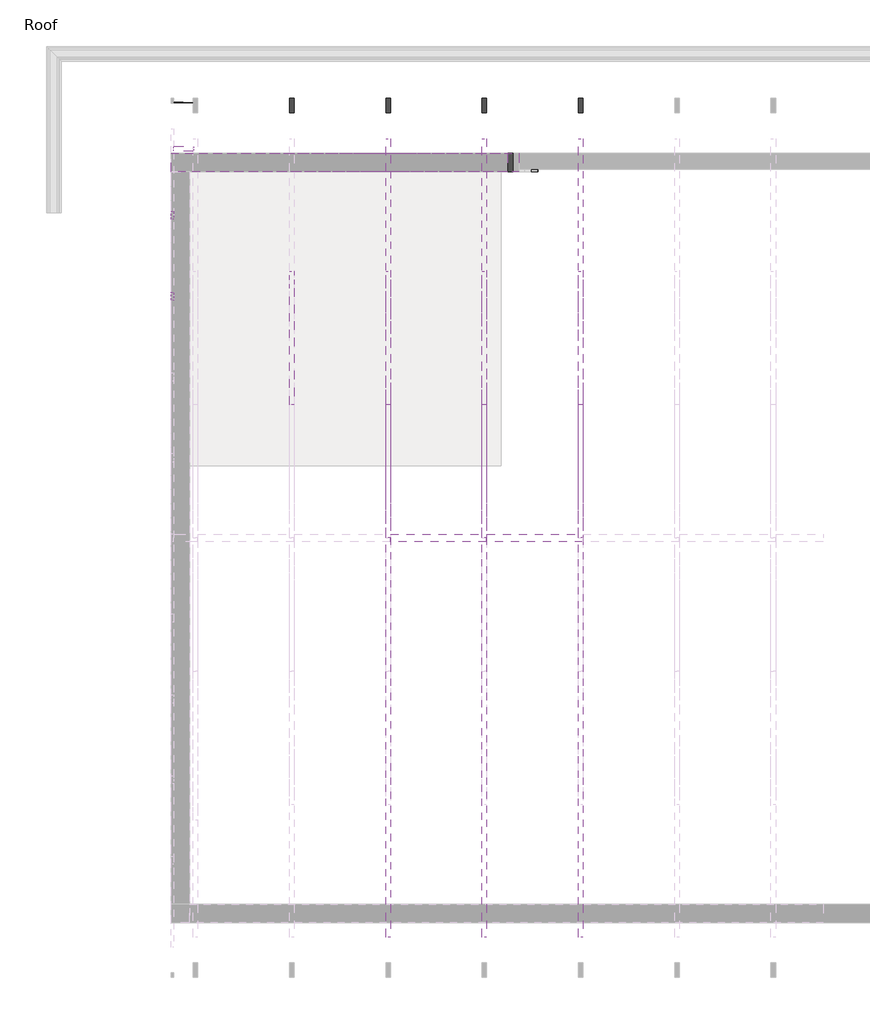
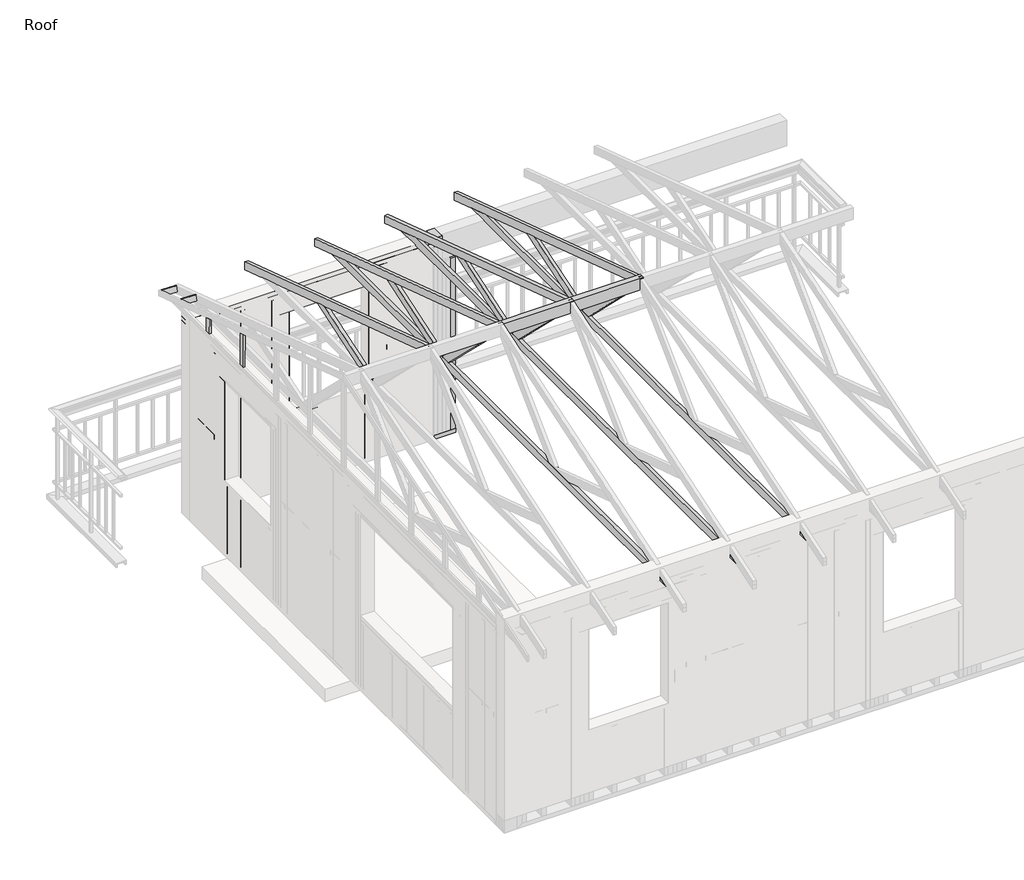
# One storey, part 4 of 6: 92 beams.
"""IFC4 building model written with IfcOpenShell, lengths in millimetres."""

from ifc_helpers import new_model, si_unit, frame, origin, place, context, project, spatial, polyline, outline, extrude, transform, mapped, element, save
from components import beam_3fbe4e3d, beam_2a418d08, beam_a3a851c1, beam_51437148, experttrusspart_2_x_4_5d1fd198, experttrusspart_2_x_4_7bcd8695, beam_14325a6d, beam_a279e93a, beam_8c6c62c1, beam_a0387a4f, beam_16850151, beam_07e80ac2, beam_1607fcbd, beam_4715e774, beam_34a553ad, beam_072c08c6, beam_5118db80, beam_ac3a78cb, beam_d06b0733, beam_8791feaf, beam_558964e0, beam_b7962ac8, beam_e041d9c6, beam_19b97b81, beam_b949707d, beam_7b8014bc, beam_51b55d0f, beam_57e885f1, beam_9d6aa0d6, beam_2e444c4d, beam_34389604, beam_ad39f8b9

model = new_model("IFC4")

# Units and contexts
model_context = context("Model", 3, world=origin())
ifc_project = project(units=[si_unit("LENGTHUNIT", "METRE", prefix="MILLI")], contexts=[model_context])

# Site, building, storey
site = spatial("IfcSite", under=ifc_project)
building = spatial("IfcBuilding", under=site)
storey = spatial("IfcBuildingStorey", under=building, Name="Roof", Elevation=4267.2)

# Beams
placement = place(None, origin())
beam_shape = beam_3fbe4e3d(model_context)
element("IfcBeam", 1, ObjectType="BraceBeam : 1\" x 3\"", at=placement, inside=storey, context=model_context, shape_type="MappedRepresentation", body=[
    mapped(beam_shape, transform((-11432.8538577, -18721.6074184, 5625.1434266), x_axis=(0.9993467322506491, -0.03219935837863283, 0.01641066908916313), y_axis=(0.03570355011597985, 0.9499881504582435, -0.3102382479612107), z_axis=(-0.0056004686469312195, 0.3106214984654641, 0.9505171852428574))),
])
beam_2_shape = beam_2a418d08(model_context)
element("IfcBeam", 2, ObjectType="BraceBeam : 1\" x 3\"", at=placement, inside=storey, context=model_context, shape_type="MappedRepresentation", body=[
    mapped(beam_2_shape, transform((-11432.8564169, -18335.048789, 5498.9646338), x_axis=(0.9993472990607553, -0.03223591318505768, 0.016304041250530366), y_axis=(0.035705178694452, 0.9499879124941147, -0.31023878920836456), z_axis=(-0.005487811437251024, 0.31061843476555, 0.9505188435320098))),
])
beam_3_shape = beam_a3a851c1(model_context)
element("IfcBeam", 3, ObjectType="BraceBeam : 1\" x 3\"", at=placement, inside=storey, context=model_context, shape_type="MappedRepresentation", body=[
    mapped(beam_3_shape, transform((-11520.2112948, -19948.8273655, 5797.4332975), x_axis=(0.0, -0.009884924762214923, 0.9999511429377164), y_axis=(1.0, 0.0, 0.0), z_axis=(0.0, 0.9999511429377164, 0.009884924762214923))),
])
beam_4_shape = beam_51437148(model_context)
element("IfcBeam", 4, ObjectType="BraceBeam : 1\" x 3\"", at=placement, inside=storey, context=model_context, shape_type="MappedRepresentation", body=[
    mapped(beam_4_shape, transform((-11520.2112948, -19276.6541589, 5687.5908368), x_axis=(0.0, -0.011417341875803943, 0.9999348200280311), y_axis=(1.0, 0.0, 0.0), z_axis=(0.0, 0.9999348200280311, 0.011417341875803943))),
])
element("IfcBeam", 5, ObjectType="ExpertTrussPart : 2 x 4", at=placement, inside=storey, context=model_context, shape_type="SweptSolid", body=[
    extrude(outline(polyline([(-19883.9561718, 5943.8890941), (-19812.3273277, 5920.5102353), (-19740.6984836, 5897.1313765), (-20571.0924881, 5626.1), (-20850.5374103, 5626.1), (-20850.2876203, 5628.4892463), (-19883.9561718, 5943.8890941)])), frame((-10545.0057433, 0.0, 0.0), z_axis=(1.0, 0.0, 0.0), x_axis=(0.0, 1.0, 0.0)), (0.0, 0.0, 1.0), 38.1),
])
element("IfcBeam", 6, ObjectType="ExpertTrussPart : 2 x 4", at=placement, inside=storey, context=model_context, shape_type="SweptSolid", body=[
    extrude(outline(polyline([(-21793.4464104, 6567.1254915), (-20848.8530293, 5642.2111391), (-20850.5374103, 5626.1), (-20959.4672099, 5626.1), (-21960.3763369, 6606.1568536), (-21960.3763369, 6621.6095647), (-21793.4464104, 6567.1254915)])), frame((-9743.2124099, 0.0, 0.0), z_axis=(1.0, 0.0, 0.0), x_axis=(0.0, 1.0, 0.0)), (0.0, 0.0, 1.0), 38.1),
])
element("IfcBeam", 7, ObjectType="ExpertTrussPart : 2 x 4", at=placement, inside=storey, context=model_context, shape_type="SweptSolid", body=[
    extrude(outline(polyline([(-19883.9561718, 5943.8890941), (-19812.3273277, 5920.5102353), (-19740.6984836, 5897.1313765), (-20571.0924881, 5626.1), (-20850.5374103, 5626.1), (-20850.2876203, 5628.4892463), (-19883.9561718, 5943.8890941)])), frame((-9743.2124099, 0.0, 0.0), z_axis=(1.0, 0.0, 0.0), x_axis=(0.0, 1.0, 0.0)), (0.0, 0.0, 1.0), 38.1),
])
element("IfcBeam", 8, ObjectType="ExpertTrussPart : 2 x 4", at=placement, inside=storey, context=model_context, shape_type="SweptSolid", body=[
    extrude(outline(polyline([(-21793.4464104, 6567.1254915), (-20848.8530293, 5642.2111391), (-20850.5374103, 5626.1), (-20959.4672099, 5626.1), (-21960.3763369, 6606.1568536), (-21960.3763369, 6621.6095647), (-21793.4464104, 6567.1254915)])), frame((-8941.4190766, 0.0, 0.0), z_axis=(1.0, 0.0, 0.0), x_axis=(0.0, 1.0, 0.0)), (0.0, 0.0, 1.0), 38.1),
])
element("IfcBeam", 9, ObjectType="ExpertTrussPart : 2 x 4", at=placement, inside=storey, context=model_context, shape_type="SweptSolid", body=[
    extrude(outline(polyline([(-19883.9561718, 5943.8890941), (-19812.3273277, 5920.5102353), (-19740.6984836, 5897.1313765), (-20571.0924881, 5626.1), (-20850.5374103, 5626.1), (-20850.2876203, 5628.4892463), (-19883.9561718, 5943.8890941)])), frame((-8941.4190766, 0.0, 0.0), z_axis=(1.0, 0.0, 0.0), x_axis=(0.0, 1.0, 0.0)), (0.0, 0.0, 1.0), 38.1),
])
element("IfcBeam", 10, ObjectType="ExpertTrussPart : 2 x 4", at=placement, inside=storey, context=model_context, shape_type="SweptSolid", body=[
    extrude(outline(polyline([(-21793.4464104, 6567.1254915), (-20848.8530293, 5642.2111391), (-20850.5374103, 5626.1), (-20959.4672099, 5626.1), (-21960.3763369, 6606.1568536), (-21960.3763369, 6621.6095647), (-21793.4464104, 6567.1254915)])), frame((-8139.6257433, 0.0, 0.0), z_axis=(1.0, 0.0, 0.0), x_axis=(0.0, 1.0, 0.0)), (0.0, 0.0, 1.0), 38.1),
])
element("IfcBeam", 11, ObjectType="ExpertTrussPart : 2 x 4", at=placement, inside=storey, context=model_context, shape_type="SweptSolid", body=[
    extrude(outline(polyline([(-19883.9561718, 5943.8890941), (-19812.3273277, 5920.5102353), (-19740.6984836, 5897.1313765), (-20571.0924881, 5626.1), (-20850.5374103, 5626.1), (-20850.2876203, 5628.4892463), (-19883.9561718, 5943.8890941)])), frame((-8139.6257433, 0.0, 0.0), z_axis=(1.0, 0.0, 0.0), x_axis=(0.0, 1.0, 0.0)), (0.0, 0.0, 1.0), 38.1),
])
element("IfcBeam", 12, ObjectType="ExpertTrussPart : 2 x 4", at=placement, inside=storey, context=model_context, shape_type="SweptSolid", body=[
    extrude(outline(polyline([(-19883.9561718, 5943.8890941), (-19812.3273277, 5920.5102353), (-19740.6984836, 5897.1313765), (-20571.0924881, 5626.1), (-20850.5374103, 5626.1), (-20850.2876203, 5628.4892463), (-19883.9561718, 5943.8890941)])), frame((-10545.0057433, 0.0, 0.0), z_axis=(1.0, 0.0, 0.0), x_axis=(0.0, 1.0, 0.0)), (0.0, 0.0, 1.0), 38.1),
])
element("IfcBeam", 13, ObjectType="ExpertTrussPart : 2 x 4", at=placement, inside=storey, context=model_context, shape_type="SweptSolid", body=[
    extrude(outline(polyline([(-21793.4464104, 6567.1254915), (-20848.8530293, 5642.2111391), (-20850.5374103, 5626.1), (-20959.4672099, 5626.1), (-21960.3763369, 6606.1568536), (-21960.3763369, 6621.6095647), (-21793.4464104, 6567.1254915)])), frame((-9743.2124099, 0.0, 0.0), z_axis=(1.0, 0.0, 0.0), x_axis=(0.0, 1.0, 0.0)), (0.0, 0.0, 1.0), 38.1),
])
element("IfcBeam", 14, ObjectType="ExpertTrussPart : 2 x 4", at=placement, inside=storey, context=model_context, shape_type="SweptSolid", body=[
    extrude(outline(polyline([(-19883.9561718, 5943.8890941), (-19812.3273277, 5920.5102353), (-19740.6984836, 5897.1313765), (-20571.0924881, 5626.1), (-20850.5374103, 5626.1), (-20850.2876203, 5628.4892463), (-19883.9561718, 5943.8890941)])), frame((-9743.2124099, 0.0, 0.0), z_axis=(1.0, 0.0, 0.0), x_axis=(0.0, 1.0, 0.0)), (0.0, 0.0, 1.0), 38.1),
])
element("IfcBeam", 15, ObjectType="ExpertTrussPart : 2 x 4", at=placement, inside=storey, context=model_context, shape_type="SweptSolid", body=[
    extrude(outline(polyline([(-21793.4464104, 6567.1254915), (-20848.8530293, 5642.2111391), (-20850.5374103, 5626.1), (-20959.4672099, 5626.1), (-21960.3763369, 6606.1568536), (-21960.3763369, 6621.6095647), (-21793.4464104, 6567.1254915)])), frame((-8941.4190766, 0.0, 0.0), z_axis=(1.0, 0.0, 0.0), x_axis=(0.0, 1.0, 0.0)), (0.0, 0.0, 1.0), 38.1),
])
element("IfcBeam", 16, ObjectType="ExpertTrussPart : 2 x 4", at=placement, inside=storey, context=model_context, shape_type="SweptSolid", body=[
    extrude(outline(polyline([(-19883.9561718, 5943.8890941), (-19812.3273277, 5920.5102353), (-19740.6984836, 5897.1313765), (-20571.0924881, 5626.1), (-20850.5374103, 5626.1), (-20850.2876203, 5628.4892463), (-19883.9561718, 5943.8890941)])), frame((-8941.4190766, 0.0, 0.0), z_axis=(1.0, 0.0, 0.0), x_axis=(0.0, 1.0, 0.0)), (0.0, 0.0, 1.0), 38.1),
])
element("IfcBeam", 17, ObjectType="ExpertTrussPart : 2 x 4", at=placement, inside=storey, context=model_context, shape_type="SweptSolid", body=[
    extrude(outline(polyline([(-21793.4464104, 6567.1254915), (-20848.8530293, 5642.2111391), (-20850.5374103, 5626.1), (-20959.4672099, 5626.1), (-21960.3763369, 6606.1568536), (-21960.3763369, 6621.6095647), (-21793.4464104, 6567.1254915)])), frame((-8139.6257433, 0.0, 0.0), z_axis=(1.0, 0.0, 0.0), x_axis=(0.0, 1.0, 0.0)), (0.0, 0.0, 1.0), 38.1),
])
element("IfcBeam", 18, ObjectType="ExpertTrussPart : 2 x 4", at=placement, inside=storey, context=model_context, shape_type="SweptSolid", body=[
    extrude(outline(polyline([(-19883.9561718, 5943.8890941), (-19812.3273277, 5920.5102353), (-19740.6984836, 5897.1313765), (-20571.0924881, 5626.1), (-20850.5374103, 5626.1), (-20850.2876203, 5628.4892463), (-19883.9561718, 5943.8890941)])), frame((-8139.6257433, 0.0, 0.0), z_axis=(1.0, 0.0, 0.0), x_axis=(0.0, 1.0, 0.0)), (0.0, 0.0, 1.0), 38.1),
])
experttrusspart_2_x_4_shape = experttrusspart_2_x_4_5d1fd198(model_context)
element("IfcBeam", 19, ObjectType="ExpertTrussPart : 2 x 4", at=placement, inside=storey, context=model_context, shape_type="MappedRepresentation", body=[
    mapped(experttrusspart_2_x_4_shape, transform((-9724.1624099, -21960.3763369, 5537.2), x_axis=(0.0, -1.0, 0.0), y_axis=(1.0, 0.0, 0.0), z_axis=(0.0, 0.0, 1.0))),
])
element("IfcBeam", 20, ObjectType="ExpertTrussPart : 2 x 4", at=placement, inside=storey, context=model_context, shape_type="MappedRepresentation", body=[
    mapped(experttrusspart_2_x_4_shape, transform((-8922.3690766, -21960.3763369, 5537.2), x_axis=(0.0, -1.0, 0.0), y_axis=(1.0, 0.0, 0.0), z_axis=(0.0, 0.0, 1.0))),
])
element("IfcBeam", 21, ObjectType="ExpertTrussPart : 2 x 4", at=placement, inside=storey, context=model_context, shape_type="MappedRepresentation", body=[
    mapped(experttrusspart_2_x_4_shape, transform((-8120.5757433, -21960.3763369, 5537.2), x_axis=(0.0, -1.0, 0.0), y_axis=(1.0, 0.0, 0.0), z_axis=(0.0, 0.0, 1.0))),
])
element("IfcBeam", 22, ObjectType="ExpertTrussPart : 2 x 4", at=placement, inside=storey, context=model_context, shape_type="MappedRepresentation", body=[
    mapped(experttrusspart_2_x_4_shape, transform((-9724.1624099, -21960.3763369, 5537.2), x_axis=(0.0, -1.0, 0.0), y_axis=(1.0, 0.0, 0.0), z_axis=(0.0, 0.0, 1.0))),
])
element("IfcBeam", 23, ObjectType="ExpertTrussPart : 2 x 4", at=placement, inside=storey, context=model_context, shape_type="MappedRepresentation", body=[
    mapped(experttrusspart_2_x_4_shape, transform((-8922.3690766, -21960.3763369, 5537.2), x_axis=(0.0, -1.0, 0.0), y_axis=(1.0, 0.0, 0.0), z_axis=(0.0, 0.0, 1.0))),
])
element("IfcBeam", 24, ObjectType="ExpertTrussPart : 2 x 4", at=placement, inside=storey, context=model_context, shape_type="MappedRepresentation", body=[
    mapped(experttrusspart_2_x_4_shape, transform((-8120.5757433, -21960.3763369, 5537.2), x_axis=(0.0, -1.0, 0.0), y_axis=(1.0, 0.0, 0.0), z_axis=(0.0, 0.0, 1.0))),
])
experttrusspart_2_x_4_2_shape = experttrusspart_2_x_4_7bcd8695(model_context)
element("IfcBeam", 25, ObjectType="ExpertTrussPart : 2 x 4", at=placement, inside=storey, context=model_context, shape_type="MappedRepresentation", body=[
    mapped(experttrusspart_2_x_4_2_shape, transform((-10525.9557433, -20145.3682843, 6029.2111031), x_axis=(0.0, 0.950645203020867, -0.3102800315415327), y_axis=(-1.0, 0.0, 0.0), z_axis=(0.0, 0.3102800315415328, 0.9506452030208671))),
])
element("IfcBeam", 26, ObjectType="ExpertTrussPart : 2 x 4", at=placement, inside=storey, context=model_context, shape_type="MappedRepresentation", body=[
    mapped(experttrusspart_2_x_4_2_shape, transform((-9724.1624099, -20145.3682843, 6029.2111031), x_axis=(0.0, 0.9506452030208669, -0.310280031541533), y_axis=(-1.0, 0.0, 0.0), z_axis=(0.0, 0.31028003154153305, 0.950645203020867))),
])
element("IfcBeam", 27, ObjectType="ExpertTrussPart : 2 x 4", at=placement, inside=storey, context=model_context, shape_type="MappedRepresentation", body=[
    mapped(experttrusspart_2_x_4_2_shape, transform((-8922.3690766, -20145.3682843, 6029.2111031), x_axis=(0.0, 0.950645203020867, -0.310280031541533), y_axis=(-1.0, 0.0, 0.0), z_axis=(0.0, 0.3102800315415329, 0.950645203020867))),
])
element("IfcBeam", 28, ObjectType="ExpertTrussPart : 2 x 4", at=placement, inside=storey, context=model_context, shape_type="MappedRepresentation", body=[
    mapped(experttrusspart_2_x_4_2_shape, transform((-8120.5757433, -20145.3682843, 6029.2111031), x_axis=(0.0, 0.950645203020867, -0.31028003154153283), y_axis=(-1.0, 0.0, 0.0), z_axis=(0.0, 0.3102800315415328, 0.9506452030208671))),
])
element("IfcBeam", 29, ObjectType="ExpertTrussPart : 2 x 4", at=placement, inside=storey, context=model_context, shape_type="MappedRepresentation", body=[
    mapped(experttrusspart_2_x_4_2_shape, transform((-10525.9557433, -20145.3682843, 6029.2111031), x_axis=(0.0, 0.950645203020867, -0.3102800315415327), y_axis=(-1.0, 0.0, 0.0), z_axis=(0.0, 0.3102800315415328, 0.9506452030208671))),
])
element("IfcBeam", 30, ObjectType="ExpertTrussPart : 2 x 4", at=placement, inside=storey, context=model_context, shape_type="MappedRepresentation", body=[
    mapped(experttrusspart_2_x_4_2_shape, transform((-9724.1624099, -20145.3682843, 6029.2111031), x_axis=(0.0, 0.9506452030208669, -0.310280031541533), y_axis=(-1.0, 0.0, 0.0), z_axis=(0.0, 0.31028003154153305, 0.950645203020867))),
])
element("IfcBeam", 31, ObjectType="ExpertTrussPart : 2 x 4", at=placement, inside=storey, context=model_context, shape_type="MappedRepresentation", body=[
    mapped(experttrusspart_2_x_4_2_shape, transform((-8922.3690766, -20145.3682843, 6029.2111031), x_axis=(0.0, 0.950645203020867, -0.310280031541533), y_axis=(-1.0, 0.0, 0.0), z_axis=(0.0, 0.3102800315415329, 0.950645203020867))),
])
element("IfcBeam", 32, ObjectType="ExpertTrussPart : 2 x 4", at=placement, inside=storey, context=model_context, shape_type="MappedRepresentation", body=[
    mapped(experttrusspart_2_x_4_2_shape, transform((-8120.5757433, -20145.3682843, 6029.2111031), x_axis=(0.0, 0.950645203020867, -0.31028003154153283), y_axis=(-1.0, 0.0, 0.0), z_axis=(0.0, 0.3102800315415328, 0.9506452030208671))),
])
beam_5_shape = beam_14325a6d(model_context)
element("IfcBeam", 33, ObjectType="Rectangular(Timber)-Beam : Timber_0' - 1 31/32\" x0' - 3 15/16\" _ContentGenerator", at=placement, inside=storey, context=model_context, shape_type="MappedRepresentation", body=[
    mapped(beam_5_shape, transform((-9929.4790766, -18836.1763369, 3987.8), x_axis=(1.0000000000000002, 0.0, 0.0), y_axis=(0.0, 0.0, -1.0000000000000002), z_axis=(0.0, 1.0000000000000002, 0.0))),
])
element("IfcBeam", 34, ObjectType="Rectangular(Timber)-Beam : Timber_0' - 1 31/32\" x0' - 5 29/32\" _ContentGenerator", at=placement, inside=storey, context=model_context, shape_type="SweptSolid", body=[
    extrude(outline(polyline([(-8634.0740766, -18759.9763369), (-8634.0740766, -18912.3763369), (-11529.6790766, -18912.3763369), (-11529.6790766, -18759.9763369), (-8634.0740766, -18759.9763369)])), frame((0.0, 0.0, 5486.4), z_axis=(0.0, 0.0, 1.0), x_axis=(1.0, 0.0, 0.0)), (0.0, 0.0, 1.0), 50.8),
])
element("IfcBeam", 35, ObjectType="Rectangular(Timber)-Beam : Timber_0' - 1 31/32\" x0' - 5 29/32\" _ContentGenerator", at=placement, inside=storey, context=model_context, shape_type="SweptSolid", body=[
    extrude(outline(polyline([(-11529.6690766, -18759.9763369), (-11478.8690766, -18759.9763369), (-11478.8690766, -18912.3763369), (-11529.6690766, -18912.3763369), (-11529.6690766, -18759.9763369)])), frame((0.0, 0.0, 3098.8), z_axis=(0.0, 0.0, 1.0), x_axis=(1.0, 0.0, 0.0)), (0.0, 0.0, 1.0), 2387.6),
])
element("IfcBeam", 36, ObjectType="Rectangular(Timber)-Beam : Timber_0' - 1 31/32\" x0' - 5 29/32\" _ContentGenerator", at=placement, inside=storey, context=model_context, shape_type="SweptSolid", body=[
    extrude(outline(polyline([(-9370.6690766, -18759.9763369), (-9319.8690766, -18759.9763369), (-9319.8690766, -18912.3763369), (-9370.6690766, -18912.3763369), (-9370.6690766, -18759.9763369)])), frame((0.0, 0.0, 3149.6), z_axis=(0.0, 0.0, 1.0), x_axis=(1.0, 0.0, 0.0)), (0.0, 0.0, 1.0), 2286.0),
])
element("IfcBeam", 37, ObjectType="Rectangular(Timber)-Beam : Timber_0' - 1 31/32\" x0' - 5 29/32\" _ContentGenerator", at=placement, inside=storey, context=model_context, shape_type="SweptSolid", body=[
    extrude(outline(polyline([(-10539.0690766, -18759.9763369), (-10488.2690766, -18759.9763369), (-10488.2690766, -18912.3763369), (-10539.0690766, -18912.3763369), (-10539.0690766, -18759.9763369)])), frame((0.0, 0.0, 3149.6), z_axis=(0.0, 0.0, 1.0), x_axis=(1.0, 0.0, 0.0)), (0.0, 0.0, 1.0), 2286.0),
])
element("IfcBeam", 38, ObjectType="Rectangular(Timber)-Beam : Timber_0' - 1 31/32\" x0' - 5 29/32\" _ContentGenerator", at=placement, inside=storey, context=model_context, shape_type="SweptSolid", body=[
    extrude(outline(polyline([(-10589.8690766, -18759.9763369), (-10539.0690766, -18759.9763369), (-10539.0690766, -18912.3763369), (-10589.8690766, -18912.3763369), (-10589.8690766, -18759.9763369)])), frame((0.0, 0.0, 3149.6), z_axis=(0.0, 0.0, 1.0), x_axis=(1.0, 0.0, 0.0)), (0.0, 0.0, 1.0), 2286.0),
])
element("IfcBeam", 39, ObjectType="Rectangular(Timber)-Beam : Timber_0' - 1 31/32\" x0' - 5 29/32\" _ContentGenerator", at=placement, inside=storey, context=model_context, shape_type="SweptSolid", body=[
    extrude(outline(polyline([(-9319.8690766, -18759.9763369), (-9269.0690766, -18759.9763369), (-9269.0690766, -18912.3763369), (-9319.8690766, -18912.3763369), (-9319.8690766, -18759.9763369)])), frame((0.0, 0.0, 3149.6), z_axis=(0.0, 0.0, 1.0), x_axis=(1.0, 0.0, 0.0)), (0.0, 0.0, 1.0), 2286.0),
])
element("IfcBeam", 40, ObjectType="Rectangular(Timber)-Beam : Timber_0' - 1 31/32\" x0' - 5 29/32\" _ContentGenerator", at=placement, inside=storey, context=model_context, shape_type="SweptSolid", body=[
    extrude(outline(polyline([(-11377.2790766, -19458.4863369), (-11377.2790766, -19509.2863369), (-11529.6790766, -19509.2863369), (-11529.6790766, -19458.4863369), (-11377.2790766, -19458.4863369)])), frame((0.0, 0.0, 3149.6), z_axis=(0.0, 0.0, 1.0), x_axis=(1.0, 0.0, 0.0)), (0.0, 0.0, 1.0), 2286.0),
])
element("IfcBeam", 41, ObjectType="Rectangular(Timber)-Beam : Timber_0' - 1 31/32\" x0' - 5 29/32\" _ContentGenerator", at=placement, inside=storey, context=model_context, shape_type="SweptSolid", body=[
    extrude(outline(polyline([(-11377.2790766, -19407.6863369), (-11377.2790766, -19458.4863369), (-11529.6790766, -19458.4863369), (-11529.6790766, -19407.6863369), (-11377.2790766, -19407.6863369)])), frame((0.0, 0.0, 3149.6), z_axis=(0.0, 0.0, 1.0), x_axis=(1.0, 0.0, 0.0)), (0.0, 0.0, 1.0), 2286.0),
])
beam_6_shape = beam_a279e93a(model_context)
element("IfcBeam", 42, ObjectType="Rectangular(Timber)-Beam : Timber_0' - 1 31/32\" x0' - 5 29/32\" _ContentGenerator", at=placement, inside=storey, context=model_context, shape_type="MappedRepresentation", body=[
    mapped(beam_6_shape, transform((-11453.4790766, -18937.7863369, 4292.6), x_axis=(0.0, 0.0, 1.0), y_axis=(0.0, -1.0, 0.0), z_axis=(1.0, 0.0, 0.0))),
])
beam_7_shape = beam_8c6c62c1(model_context)
element("IfcBeam", 43, ObjectType="Rectangular(Timber)-Beam : Timber_0' - 1 31/32\" x0' - 5 29/32\" _ContentGenerator", at=placement, inside=storey, context=model_context, shape_type="MappedRepresentation", body=[
    mapped(beam_7_shape, transform((-11288.3790766, -18836.1763369, 4413.25), x_axis=(1.0000000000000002, 0.0, 0.0), y_axis=(0.0, 0.0, -1.0000000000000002), z_axis=(0.0, 1.0000000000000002, 0.0))),
])
beam_8_shape = beam_a0387a4f(model_context)
element("IfcBeam", 44, ObjectType="Rectangular(Timber)-Beam : Timber_0' - 1 31/32\" x0' - 5 29/32\" _ContentGenerator", at=placement, inside=storey, context=model_context, shape_type="MappedRepresentation", body=[
    mapped(beam_8_shape, transform((-8507.0740766, -18836.1763369, 4189.9650584), x_axis=(0.0, 0.0, 1.0), y_axis=(-1.0, 0.0, 0.0), z_axis=(0.0, -1.0, 0.0))),
])
beam_9_shape = beam_16850151(model_context)
element("IfcBeam", 45, ObjectType="Rectangular(Timber)-Beam : Timber_0' - 1 31/32\" x0' - 5 29/32\" _ContentGenerator", at=placement, inside=storey, context=model_context, shape_type="MappedRepresentation", body=[
    mapped(beam_9_shape, transform((-9991.2874741, -18836.1763369, 3124.2), x_axis=(-1.0000000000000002, 0.0, 0.0), y_axis=(0.0, 0.0, -1.0000000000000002), z_axis=(0.0, -1.0000000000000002, 0.0))),
])
beam_10_shape = beam_07e80ac2(model_context)
element("IfcBeam", 46, ObjectType="Rectangular(Timber)-Beam : Timber_0' - 1 31/32\" x0' - 5 29/32\" _ContentGenerator", at=placement, inside=storey, context=model_context, shape_type="MappedRepresentation", body=[
    mapped(beam_10_shape, transform((-10129.5040766, -18836.1763369, 5511.8), x_axis=(1.0000000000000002, 0.0, 0.0), y_axis=(0.0, 0.0, -1.0000000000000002), z_axis=(0.0, 1.0000000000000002, 0.0))),
])
element("IfcBeam", 47, ObjectType="Rectangular(Timber)-Beam : Timber_0' - 1 31/32\" x0' - 5 29/32\" _ContentGenerator", at=placement, inside=storey, context=model_context, shape_type="MappedRepresentation", body=[
    mapped(beam_10_shape, transform((-10129.5040766, -18836.1763369, 5511.8), x_axis=(1.0000000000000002, 0.0, 0.0), y_axis=(0.0, 0.0, -1.0000000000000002), z_axis=(0.0, 1.0000000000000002, 0.0))),
])
beam_11_shape = beam_1607fcbd(model_context)
element("IfcBeam", 48, ObjectType="Rectangular(Timber)-Beam : Timber_0' - 1 31/32\" x0' - 5 29/32\" _ContentGenerator", at=placement, inside=storey, context=model_context, shape_type="MappedRepresentation", body=[
    mapped(beam_11_shape, transform((-8938.8765766, -18836.1763369, 4413.25), x_axis=(1.0000000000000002, 0.0, 0.0), y_axis=(0.0, 0.0, -1.0000000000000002), z_axis=(0.0, 1.0000000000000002, 0.0))),
])
beam_12_shape = beam_4715e774(model_context)
element("IfcBeam", 49, ObjectType="Rectangular(Timber)-Beam : Timber_0' - 1 31/32\" x0' - 5 29/32\" _ContentGenerator", at=placement, inside=storey, context=model_context, shape_type="MappedRepresentation", body=[
    mapped(beam_12_shape, transform((-10412.0690766, -18836.1763369, 4191.0), x_axis=(0.0, 0.0, 1.0), y_axis=(1.0, 0.0, 0.0), z_axis=(0.0, 1.0, 0.0))),
])
element("IfcBeam", 50, ObjectType="Rectangular(Timber)-Beam : Timber_0' - 1 31/32\" x0' - 5 29/32\" _ContentGenerator", at=placement, inside=storey, context=model_context, shape_type="MappedRepresentation", body=[
    mapped(beam_12_shape, transform((-9446.8690766, -18836.1763369, 4191.0), x_axis=(0.0, 0.0, 1.0), y_axis=(1.0, 0.0, 0.0), z_axis=(0.0, 1.0, 0.0))),
])
element("IfcBeam", 51, ObjectType="Rectangular(Timber)-Beam : Timber_0' - 1 31/32\" x0' - 5 29/32\" _ContentGenerator", at=placement, inside=storey, context=model_context, shape_type="MappedRepresentation", body=[
    mapped(beam_12_shape, transform((-9396.0690766, -18836.1763369, 4191.0), x_axis=(0.0, 0.0, 1.0), y_axis=(1.0, 0.0, 0.0), z_axis=(0.0, 1.0, 0.0))),
])
element("IfcBeam", 52, ObjectType="Rectangular(Timber)-Beam : Timber_0' - 1 31/32\" x0' - 5 29/32\" _ContentGenerator", at=placement, inside=storey, context=model_context, shape_type="MappedRepresentation", body=[
    mapped(beam_12_shape, transform((-10462.8690766, -18836.1763369, 4191.0), x_axis=(0.0, 0.0, 1.0), y_axis=(1.0, 0.0, 0.0), z_axis=(0.0, 1.0, 0.0))),
])
beam_13_shape = beam_34a553ad(model_context)
element("IfcBeam", 53, ObjectType="Rectangular(Timber)-Beam : Timber_0' - 1 31/32\" x0' - 5 29/32\" _ContentGenerator", at=placement, inside=storey, context=model_context, shape_type="MappedRepresentation", body=[
    mapped(beam_13_shape, transform((-10754.9740766, -18836.1763369, 4413.25), x_axis=(1.0000000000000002, 0.0, 0.0), y_axis=(0.0, 0.0, -1.0000000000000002), z_axis=(0.0, 1.0000000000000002, 0.0))),
])
beam_14_shape = beam_072c08c6(model_context)
element("IfcBeam", 54, ObjectType="Rectangular(Timber)-Beam : Timber_0' - 1 31/32\" x0' - 5 29/32\" _ContentGenerator", at=placement, inside=storey, context=model_context, shape_type="MappedRepresentation", body=[
    mapped(beam_14_shape, transform((-9180.1740766, -18836.1763369, 4413.25), x_axis=(1.0000000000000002, 0.0, 0.0), y_axis=(0.0, 0.0, -1.0000000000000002), z_axis=(0.0, 1.0000000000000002, 0.0))),
])
beam_15_shape = beam_5118db80(model_context)
element("IfcBeam", 55, ObjectType="Rectangular(Timber)-Beam : Timber_0' - 1 31/32\" x0' - 5 29/32\" _ContentGenerator", at=placement, inside=storey, context=model_context, shape_type="MappedRepresentation", body=[
    mapped(beam_15_shape, transform((-11326.4740766, -18836.1763369, 4413.25), x_axis=(1.0000000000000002, 0.0, 0.0), y_axis=(0.0, 0.0, -1.0000000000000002), z_axis=(0.0, 1.0000000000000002, 0.0))),
])
beam_16_shape = beam_ac3a78cb(model_context)
element("IfcBeam", 56, ObjectType="Rectangular(Timber)-Beam : Timber_0' - 1 31/32\" x0' - 5 29/32\" _ContentGenerator", at=placement, inside=storey, context=model_context, shape_type="MappedRepresentation", body=[
    mapped(beam_16_shape, transform((-11453.4790766, -19312.4313369, 4413.25), x_axis=(0.0, -1.0000000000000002, 0.0), y_axis=(0.0, 0.0, -1.0000000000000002), z_axis=(1.0000000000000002, 0.0, 0.0))),
])
beam_17_shape = beam_d06b0733(model_context)
element("IfcBeam", 57, ObjectType="Rectangular(Timber)-Beam : Timber_0' - 1 31/32\" x0' - 5 29/32\" _ContentGenerator", at=placement, inside=storey, context=model_context, shape_type="MappedRepresentation", body=[
    mapped(beam_17_shape, transform((-11453.4790766, -19585.4863369, 4178.3), x_axis=(0.0, 0.0, 1.0), y_axis=(0.0, -1.0, 0.0), z_axis=(1.0, 0.0, 0.0))),
])
element("IfcBeam", 58, ObjectType="Rectangular(Timber)-Beam : Timber_0' - 1 31/32\" x0' - 5 29/32\" _ContentGenerator", at=placement, inside=storey, context=model_context, shape_type="MappedRepresentation", body=[
    mapped(beam_17_shape, transform((-11453.4790766, -19534.6663369, 4178.3), x_axis=(0.0, 0.0, 1.0), y_axis=(0.0, -1.0, 0.0), z_axis=(1.0, 0.0, 0.0))),
])
beam_18_shape = beam_8791feaf(model_context)
element("IfcBeam", 59, ObjectType="Rectangular(Timber)-Beam : Timber_0' - 1 31/32\" x0' - 5 29/32\" _ContentGenerator", at=placement, inside=storey, context=model_context, shape_type="MappedRepresentation", body=[
    mapped(beam_18_shape, transform((-10081.8765766, -18836.1763369, 5461.0), x_axis=(1.0000000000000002, 0.0, 0.0), y_axis=(0.0, 0.0, -1.0000000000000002), z_axis=(0.0, 1.0000000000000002, 0.0))),
])
beam_19_shape = beam_558964e0(model_context)
element("IfcBeam", 60, ObjectType="Rectangular(Timber)-Beam : Timber_0' - 1 31/32\" x0' - 5 29/32\" _ContentGenerator", at=placement, inside=storey, context=model_context, shape_type="MappedRepresentation", body=[
    mapped(beam_19_shape, transform((-11453.4790766, -18988.5863369, 4292.6), x_axis=(0.0, 0.0, 1.0), y_axis=(0.0, -1.0, 0.0), z_axis=(1.0, 0.0, 0.0))),
])
element("IfcBeam", 61, ObjectType="Rectangular(Timber)-Beam : Timber_0' - 1 31/32\" x0' - 5 29/32\" _ContentGenerator", at=placement, inside=storey, context=model_context, shape_type="MappedRepresentation", body=[
    mapped(beam_19_shape, transform((-11453.4790766, -19217.1763369, 4292.6), x_axis=(0.0, 0.0, 1.0), y_axis=(0.0, -1.0, 0.0), z_axis=(1.0, 0.0, 0.0))),
])
element("IfcBeam", 62, ObjectType="Rectangular(Timber)-Beam : Timber_0' - 1 31/32\" x0' - 5 29/32\" _ContentGenerator", at=placement, inside=storey, context=model_context, shape_type="MappedRepresentation", body=[
    mapped(beam_19_shape, transform((-11453.4690766, -18836.1763369, 4292.6), x_axis=(0.0, 0.0, 1.0), y_axis=(1.0, 0.0, 0.0), z_axis=(0.0, 1.0, 0.0))),
])
element("IfcBeam", 63, ObjectType="Rectangular(Timber)-Beam : Timber_0' - 1 31/32\" x0' - 5 29/32\" _ContentGenerator", at=placement, inside=storey, context=model_context, shape_type="MappedRepresentation", body=[
    mapped(beam_19_shape, transform((-11402.6690766, -18836.1763369, 4292.6), x_axis=(0.0, 0.0, 1.0), y_axis=(1.0, 0.0, 0.0), z_axis=(0.0, 1.0, 0.0))),
])
element("IfcBeam", 64, ObjectType="Rectangular(Timber)-Beam : Timber_0' - 1 31/32\" x0' - 5 29/32\" _ContentGenerator", at=placement, inside=storey, context=model_context, shape_type="MappedRepresentation", body=[
    mapped(beam_19_shape, transform((-11224.8790766, -18836.1763369, 4292.6), x_axis=(0.0, 0.0, 1.0), y_axis=(1.0, 0.0, 0.0), z_axis=(0.0, 1.0, 0.0))),
])
element("IfcBeam", 65, ObjectType="Rectangular(Timber)-Beam : Timber_0' - 1 31/32\" x0' - 5 29/32\" _ContentGenerator", at=placement, inside=storey, context=model_context, shape_type="MappedRepresentation", body=[
    mapped(beam_19_shape, transform((-10920.0790766, -18836.1763369, 4292.6), x_axis=(0.0, 0.0, 1.0), y_axis=(1.0, 0.0, 0.0), z_axis=(0.0, 1.0, 0.0))),
])
element("IfcBeam", 66, ObjectType="Rectangular(Timber)-Beam : Timber_0' - 1 31/32\" x0' - 5 29/32\" _ContentGenerator", at=placement, inside=storey, context=model_context, shape_type="MappedRepresentation", body=[
    mapped(beam_19_shape, transform((-9091.2790766, -18836.1763369, 4292.6), x_axis=(0.0, 0.0, 1.0), y_axis=(1.0, 0.0, 0.0), z_axis=(0.0, 1.0, 0.0))),
])
element("IfcBeam", 67, ObjectType="Rectangular(Timber)-Beam : Timber_0' - 1 31/32\" x0' - 5 29/32\" _ContentGenerator", at=placement, inside=storey, context=model_context, shape_type="MappedRepresentation", body=[
    mapped(beam_19_shape, transform((-11453.4790766, -18988.5863369, 4292.6), x_axis=(0.0, 0.0, 1.0), y_axis=(0.0, -1.0, 0.0), z_axis=(1.0, 0.0, 0.0))),
])
element("IfcBeam", 68, ObjectType="Rectangular(Timber)-Beam : Timber_0' - 1 31/32\" x0' - 5 29/32\" _ContentGenerator", at=placement, inside=storey, context=model_context, shape_type="MappedRepresentation", body=[
    mapped(beam_19_shape, transform((-11351.8790766, -18836.1763369, 4292.6), x_axis=(0.0, 0.0, 1.0), y_axis=(1.0, 0.0, 0.0), z_axis=(0.0, 1.0, 0.0))),
])
element("IfcBeam", 69, ObjectType="Rectangular(Timber)-Beam : Timber_0' - 1 31/32\" x0' - 5 29/32\" _ContentGenerator", at=placement, inside=storey, context=model_context, shape_type="MappedRepresentation", body=[
    mapped(beam_19_shape, transform((-11504.2690766, -18836.1763369, 4292.6), x_axis=(0.0, 0.0, 1.0), y_axis=(1.0000000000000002, 0.0, 0.0), z_axis=(0.0, 1.0000000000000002, 0.0))),
])
element("IfcBeam", 70, ObjectType="Rectangular(Timber)-Beam : Timber_0' - 1 31/32\" x0' - 5 29/32\" _ContentGenerator", at=placement, inside=storey, context=model_context, shape_type="MappedRepresentation", body=[
    mapped(beam_19_shape, transform((-11453.4690766, -18836.1763369, 4292.6), x_axis=(0.0, 0.0, 1.0), y_axis=(1.0000000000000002, 0.0, 0.0), z_axis=(0.0, 1.0000000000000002, 0.0))),
])
element("IfcBeam", 71, ObjectType="Rectangular(Timber)-Beam : Timber_0' - 1 31/32\" x0' - 5 29/32\" _ContentGenerator", at=placement, inside=storey, context=model_context, shape_type="MappedRepresentation", body=[
    mapped(beam_19_shape, transform((-11402.6690766, -18836.1763369, 4292.6), x_axis=(0.0, 0.0, 1.0), y_axis=(1.0000000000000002, 0.0, 0.0), z_axis=(0.0, 1.0000000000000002, 0.0))),
])
beam_20_shape = beam_b7962ac8(model_context)
element("IfcBeam", 72, ObjectType="Rectangular(Timber)-Beam : Timber_0' - 1 31/32\" x0' - 5 29/32\" _ContentGenerator", at=placement, inside=storey, context=model_context, shape_type="MappedRepresentation", body=[
    mapped(beam_20_shape, transform((-11453.4790766, -19907.2096702, 3556.0), x_axis=(0.0, 0.0, 1.0), y_axis=(0.0, -1.0, 0.0), z_axis=(1.0, 0.0, 0.0))),
])
element("IfcBeam", 73, ObjectType="Rectangular(Timber)-Beam : Timber_0' - 1 31/32\" x0' - 5 29/32\" _ContentGenerator", at=placement, inside=storey, context=model_context, shape_type="MappedRepresentation", body=[
    mapped(beam_20_shape, transform((-11453.4790766, -19907.2096702, 3556.0), x_axis=(0.0, 0.0, 1.0), y_axis=(0.0, -1.0, 0.0), z_axis=(1.0, 0.0, 0.0))),
])
element("IfcBeam", 74, ObjectType="Rectangular(Timber)-Beam : Timber_0' - 1 31/32\" x0' - 5 29/32\" _ContentGenerator", at=placement, inside=storey, context=model_context, shape_type="MappedRepresentation", body=[
    mapped(beam_20_shape, transform((-10361.2690766, -18836.1763369, 3556.0), x_axis=(0.0, 0.0, 1.0), y_axis=(1.0, 0.0, 0.0), z_axis=(0.0, 1.0, 0.0))),
])
element("IfcBeam", 75, ObjectType="Rectangular(Timber)-Beam : Timber_0' - 1 31/32\" x0' - 5 29/32\" _ContentGenerator", at=placement, inside=storey, context=model_context, shape_type="MappedRepresentation", body=[
    mapped(beam_20_shape, transform((-9497.6690766, -18836.1763369, 3556.0), x_axis=(0.0, 0.0, 1.0), y_axis=(1.0, 0.0, 0.0), z_axis=(0.0, 1.0, 0.0))),
])
element("IfcBeam", 76, ObjectType="Rectangular(Timber)-Beam : Timber_0' - 1 31/32\" x0' - 5 29/32\" _ContentGenerator", at=placement, inside=storey, context=model_context, shape_type="MappedRepresentation", body=[
    mapped(beam_20_shape, transform((-10090.3457433, -18836.1763369, 3556.0), x_axis=(0.0, 0.0, 1.0), y_axis=(1.0, 0.0, 0.0), z_axis=(0.0, 1.0, 0.0))),
])
element("IfcBeam", 77, ObjectType="Rectangular(Timber)-Beam : Timber_0' - 1 31/32\" x0' - 5 29/32\" _ContentGenerator", at=placement, inside=storey, context=model_context, shape_type="MappedRepresentation", body=[
    mapped(beam_20_shape, transform((-9768.6124099, -18836.1763369, 3556.0), x_axis=(0.0, 0.0, 1.0), y_axis=(1.0, 0.0, 0.0), z_axis=(0.0, 1.0, 0.0))),
])
beam_21_shape = beam_e041d9c6(model_context)
element("IfcBeam", 78, ObjectType="Rectangular(Timber)-Beam : Timber_0' - 1 31/32\" x0' - 5 29/32\" _ContentGenerator", at=placement, inside=storey, context=model_context, shape_type="MappedRepresentation", body=[
    mapped(beam_21_shape, transform((-11453.4790766, -19102.8813369, 4413.25), x_axis=(0.0, -1.0000000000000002, 0.0), y_axis=(0.0, 0.0, -1.0000000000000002), z_axis=(1.0000000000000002, 0.0, 0.0))),
])
beam_22_shape = beam_19b97b81(model_context)
element("IfcBeam", 79, ObjectType="Rectangular(Timber)-Beam : Timber_0' - 1 31/32\" x0' - 5 29/32\" _ContentGenerator", at=placement, inside=storey, context=model_context, shape_type="MappedRepresentation", body=[
    mapped(beam_22_shape, transform((-11072.4790766, -18836.1763369, 4413.25), x_axis=(1.0000000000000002, 0.0, 0.0), y_axis=(0.0, 0.0, -1.0000000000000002), z_axis=(0.0, 1.0000000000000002, 0.0))),
])
element("IfcBeam", 80, ObjectType="Rectangular(Timber)-Beam : Timber_0' - 1 31/32\" x0' - 5 29/32\" _ContentGenerator", at=placement, inside=storey, context=model_context, shape_type="MappedRepresentation", body=[
    mapped(beam_20_shape, transform((-11453.4790766, -19636.2863369, 3556.0), x_axis=(0.0, 0.0, 1.0), y_axis=(0.0, -1.0, 0.0), z_axis=(1.0, 0.0, 0.0))),
])
element("IfcBeam", 81, ObjectType="Rectangular(Timber)-Beam : Timber_0' - 1 31/32\" x0' - 5 29/32\" _ContentGenerator", at=placement, inside=storey, context=model_context, shape_type="MappedRepresentation", body=[
    mapped(beam_20_shape, transform((-11453.4790766, -19636.2863369, 3556.0), x_axis=(0.0, 0.0, 1.0), y_axis=(0.0, -1.0, 0.0), z_axis=(1.0, 0.0, 0.0))),
])
beam_23_shape = beam_b949707d(model_context)
element("IfcBeam", 82, ObjectType="Rectangular(Timber)-Beam : Timber_0' - 1 31/32\" x0' - 7 7/8\" _ContentGenerator", at=placement, inside=storey, context=model_context, shape_type="MappedRepresentation", body=[
    mapped(beam_23_shape, transform((-9929.4790766, -18886.9763369, 5334.0), x_axis=(1.0, 0.0, 0.0), y_axis=(0.0, 1.0, 0.0), z_axis=(0.0, 0.0, 1.0))),
])
beam_24_shape = beam_7b8014bc(model_context)
element("IfcBeam", 83, ObjectType="Rectangular(Timber)-Beam : Timber_0' - 1 31/32\" x0' - 7 7/8\" _ContentGenerator", at=placement, inside=storey, context=model_context, shape_type="MappedRepresentation", body=[
    mapped(beam_24_shape, transform((-9929.4690766, -18785.3763369, 5334.0), x_axis=(1.0, 0.0, 0.0), y_axis=(0.0, 1.0, 0.0), z_axis=(0.0, 0.0, 1.0))),
])
element("IfcBeam", 84, ObjectType="WallPlates : 6\" x 3\"", at=placement, inside=storey, context=model_context, shape_type="SweptSolid", body=[
    extrude(outline(polyline([(-8903.3190766, -21992.1263369), (-8903.3190766, -21928.6263369), (-8101.5257433, -21928.6263369), (-8101.5257433, -21992.1263369), (-8903.3190766, -21992.1263369)])), frame((0.0, 0.0, 6575.425), z_axis=(0.0, 0.0, 1.0), x_axis=(1.0, 0.0, 0.0)), (0.0, 0.0, 1.0), 139.7),
])
element("IfcBeam", 85, ObjectType="WallPlates : 6\" x 3\"", at=placement, inside=storey, context=model_context, shape_type="SweptSolid", body=[
    extrude(outline(polyline([(-9705.1124099, -21992.1263369), (-9705.1124099, -21928.6263369), (-8903.3190766, -21928.6263369), (-8903.3190766, -21992.1263369), (-9705.1124099, -21992.1263369)])), frame((0.0, 0.0, 6575.425), z_axis=(0.0, 0.0, 1.0), x_axis=(1.0, 0.0, 0.0)), (0.0, 0.0, 1.0), 139.7),
])
beam_25_shape = beam_51b55d0f(model_context)
element("IfcBeam", 86, ObjectType="WallPlates : 6\" x 3\"", at=placement, inside=storey, context=model_context, shape_type="MappedRepresentation", body=[
    mapped(beam_25_shape, transform((-11494.7540766, -19102.8813369, 4318.0), x_axis=(0.0, -1.0000000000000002, 0.0), y_axis=(0.0, 0.0, -1.0000000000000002), z_axis=(1.0000000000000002, 0.0, 0.0))),
])
element("IfcBeam", 87, ObjectType="WallPlates : 6\" x 3\"", at=placement, inside=storey, context=model_context, shape_type="MappedRepresentation", body=[
    mapped(beam_25_shape, transform((-11313.7740766, -18794.9013369, 4318.0), x_axis=(1.0000000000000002, 0.0, 0.0), y_axis=(0.0, 0.0, -1.0000000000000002), z_axis=(0.0, 1.0000000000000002, 0.0))),
])
beam_26_shape = beam_57e885f1(model_context)
element("IfcBeam", 88, ObjectType="WallPlates : 6\" x 3\"", at=placement, inside=storey, context=model_context, shape_type="MappedRepresentation", body=[
    mapped(beam_26_shape, transform((-11494.7540766, -19350.5313369, 4318.0), x_axis=(0.0, -1.0000000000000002, 0.0), y_axis=(0.0, 0.0, -1.0000000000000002), z_axis=(1.0000000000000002, 0.0, 0.0))),
])
beam_27_shape = beam_9d6aa0d6(model_context)
element("IfcBeam", 89, ObjectType="WallPlates : 6\" x 3\"", at=placement, inside=storey, context=model_context, shape_type="MappedRepresentation", body=[
    mapped(beam_27_shape, transform((-9269.0790766, -18794.9013369, 4318.0), x_axis=(1.0000000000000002, 0.0, 0.0), y_axis=(0.0, 0.0, -1.0000000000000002), z_axis=(0.0, 1.0000000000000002, 0.0))),
])
beam_28_shape = beam_2e444c4d(model_context)
element("IfcBeam", 90, ObjectType="WallPlates : 6\" x 3\"", at=placement, inside=storey, context=model_context, shape_type="MappedRepresentation", body=[
    mapped(beam_28_shape, transform((-10767.6740766, -18794.9013369, 4318.0), x_axis=(1.0000000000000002, 0.0, 0.0), y_axis=(0.0, 0.0, -1.0000000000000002), z_axis=(0.0, 1.0000000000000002, 0.0))),
])
beam_29_shape = beam_34389604(model_context)
element("IfcBeam", 91, ObjectType="WallPlates : 6\" x 3\"", at=placement, inside=storey, context=model_context, shape_type="MappedRepresentation", body=[
    mapped(beam_29_shape, transform((-11085.1790766, -18794.9013369, 4318.0), x_axis=(1.0000000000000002, 0.0, 0.0), y_axis=(0.0, 0.0, -1.0000000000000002), z_axis=(0.0, 1.0000000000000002, 0.0))),
])
beam_30_shape = beam_ad39f8b9(model_context)
element("IfcBeam", 92, ObjectType="WallPlates : 6\" x 3\"", at=placement, inside=storey, context=model_context, shape_type="MappedRepresentation", body=[
    mapped(beam_30_shape, transform((-11301.0790766, -18794.9013369, 4318.0), x_axis=(1.0000000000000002, 0.0, 0.0), y_axis=(0.0, 0.0, -1.0000000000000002), z_axis=(0.0, 1.0000000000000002, 0.0))),
])

save(model, "model.ifc")
